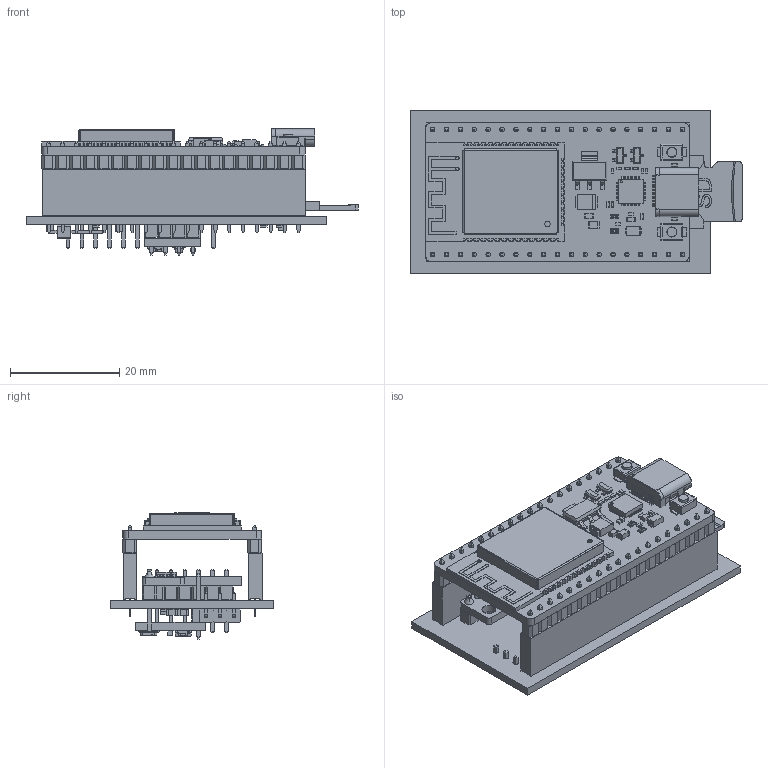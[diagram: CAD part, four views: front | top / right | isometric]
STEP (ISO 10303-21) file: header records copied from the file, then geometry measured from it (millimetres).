
FILE_DESCRIPTION(('KiCad electronic assembly'),'2;1');
FILE_NAME('Flashomat.step','2026-03-21T15:17:14',('Pcbnew'),('Kicad'), 'Open CASCADE STEP processor 7.9','KiCad to STEP converter','Unknown' );
FILE_SCHEMA(('AUTOMOTIVE_DESIGN { 1 0 10303 214 1 1 1 1 }'));
Length unit declared in the file: millimetre
Products named in the file (51): Flashomat 1; ESP32_WROOM_mod; Flashomat 1.1.1; Flashomat 1.1.2; Flashomat 1.1.3; Flashomat 1.1.4; Flashomat 1.1.5; Flashomat 1.1.6; Flashomat 1.1.7; Flashomat 1.1.8; Flashomat 1.1.9; Flashomat 1.1.10; Flashomat 1.1.11; Flashomat 1.1.12; Flashomat 1.1.13; Flashomat 1.1.14; Flashomat 1.1.15; Flashomat 1.1.16; Flashomat 1.1.17; Flashomat 1.1.18; Flashomat 1.1.19; Flashomat 1.1.20; Flashomat 1.1.21; Flashomat 1.1.22; Flashomat 1.1.23; Flashomat 1.1.24; Flashomat 1.1.25; Flashomat 1.1.26; Flashomat 1.1.27; Flashomat 1.1.28; Flashomat 1.1.29; Flashomat 1.1.30; Flashomat 1.1.31; PinSocket_1x19_P2.54mm_Vertical; GY-ADS1115_small; PinHeader_1x10_P254mm_Vertical; Scale; MicroSD Card Module _pinheader; SD Card Module - 1; Micro SD Module - 1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
Assembly tree (57 placements, depth 4):
  Flashomat 1
    ESP32_WROOM_mod
      Flashomat 1.1.1
      Flashomat 1.1.2
      Flashomat 1.1.3
      Flashomat 1.1.4
      Flashomat 1.1.5
      Flashomat 1.1.6
      Flashomat 1.1.7
      Flashomat 1.1.8
      Flashomat 1.1.9
      Flashomat 1.1.10
      Flashomat 1.1.11
      Flashomat 1.1.12
      Flashomat 1.1.13
      Flashomat 1.1.14
      Flashomat 1.1.15
      Flashomat 1.1.16
      Flashomat 1.1.17
      Flashomat 1.1.18
      Flashomat 1.1.19
      Flashomat 1.1.20
      Flashomat 1.1.21
      Flashomat 1.1.22
      Flashomat 1.1.23
      Flashomat 1.1.24
      Flashomat 1.1.25
      Flashomat 1.1.26
      Flashomat 1.1.27
      Flashomat 1.1.28
      Flashomat 1.1.29
      Flashomat 1.1.30
      Flashomat 1.1.31
    PinSocket_1x19_P2.54mm_Vertical  x2
    GY-ADS1115_small
      PinHeader_1x10_P254mm_Vertical
      Scale
    MicroSD Card Module _pinheader
      SD Card Module - 1
        Micro SD Module - 1
        MicroSD
        0603 Capacitor  x2
        0603 Resistor  x4
      PinHeader_1x06_P254mm_Vertical
    Micro SD
    PinHeader_1x03_P2.54mm_Horizontal
    LED_0805_2012Metric
    C_0805_2012Metric  x2
    R_0805_2012Metric  x2
    BMP180 Breakout
    FLashOmat_V2_PCB
Bounding box: 60.8 x 30 x 23.1 mm (x, y, z)
Volume: 9521.2 mm3; surface area: 19123.1 mm2
Topology: 243 solids, 263 shells, 7495 faces, 20948 edges, 16300 vertices
Faces by surface type: plane 6346, cylinder 626, bspline 452, sphere 48, cone 16, torus 7
Full cylindrical faces by diameter (mm): 0.4 x5, 0.5 x1, 0.6 x4, 0.8 x80, 0.838 x6, 1 x20, 1.2 x4, 1.45 x2, 1.75 x2, 1.778 x12, 1.8 x8, 1.85 x2, 1.905 x2, 2.286 x2, 2.55 x2, 3.5 x1, 4.5 x2
Entity records: 249119 total; most frequent: CARTESIAN_POINT 62087, ORIENTED_EDGE 34332, DIRECTION 32453, EDGE_CURVE 17166, LINE 16313, VECTOR 16313, VERTEX_POINT 11130, AXIS2_PLACEMENT_3D 8070
